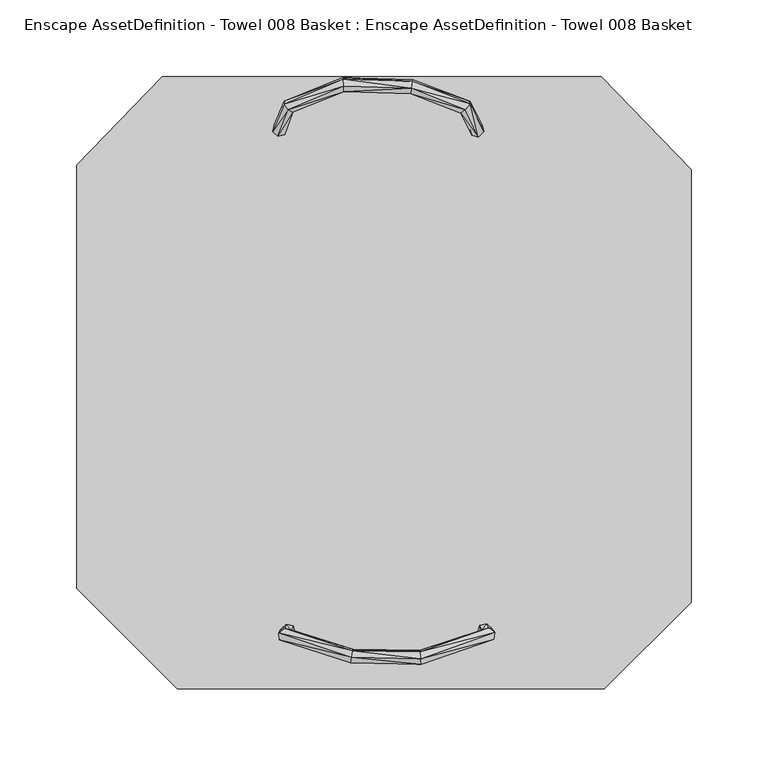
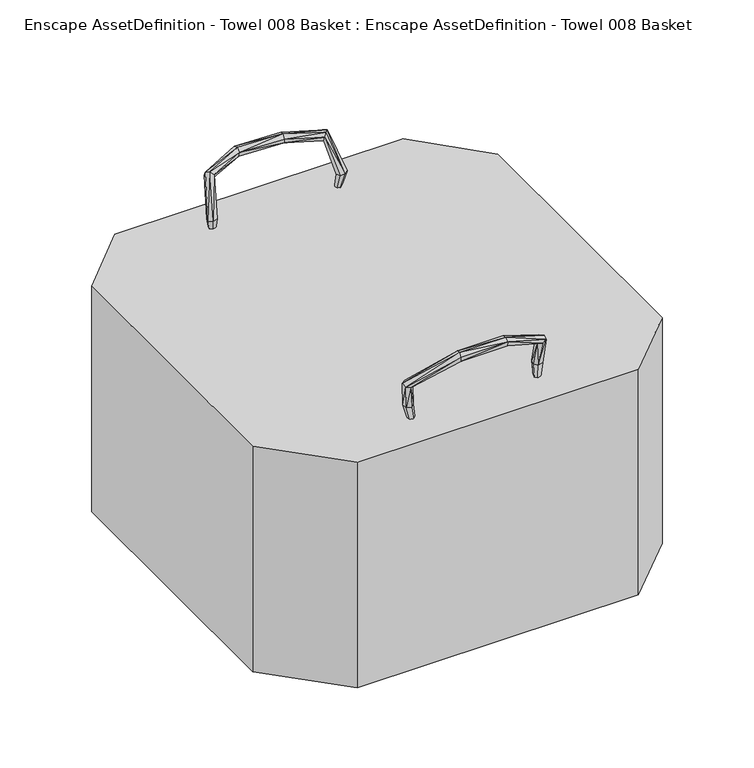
"""IFC4 building model written with IfcOpenShell, lengths in millimetres: geographic element geometry, Enscape AssetDefinition - Towel 008 Basket : Enscape AssetDefinition - Towel 008 Basket."""

from ifc_helpers import new_model, si_unit, origin, place, context, project, spatial, triangles, source, transform, mapped, element, save


def enscape_assetdefinition_towel_008_basket_enscape_c9c0a9e4(model_context):
    return source(origin(), model_context, "Body", "Tessellation", [
        triangles([(143.7320425, -199.008674, 236.284015), (-134.7313928, -199.008674, 0.0), (143.7320425, -199.008674, 0.0), (200.3278158, -142.4128734, 0.0), (200.3278158, 139.6802186, 0.0), (-200.2158859, -133.522573, 236.284015), (-134.7313928, -199.008674, 236.284015), (200.3278158, -142.4128734, 236.284015), (200.3278158, 139.6802186, 236.284015), (141.6133764, 200.3278158, 236.284015), (141.6133764, 200.3278158, 0.0), (-144.4627755, 200.3278158, 236.284015), (-144.4627755, 200.3278158, 0.0), (-200.2158859, -133.522573, 0.0), (-200.2158859, 142.6415295, 236.284015), (-200.2158859, 142.6415295, 0.0), (49.9536369, 178.3386965, 279.5747229), (55.8682514, 166.4390958, 249.6258787), (52.8829639, 182.2034316, 278.514595), (17.3393043, 189.229329, 286.0809573), (50.1231306, 176.6645618, 283.9639172), (57.0898747, 162.0531172, 250.5628854), (53.0892331, 173.2219667, 199.7921654), (53.1260087, 178.8263848, 287.2690025), (61.6373624, 161.0281616, 251.3463768), (56.1081032, 182.6255533, 286.2488613), (18.5145528, 197.4192724, 287.7966774), (65.1103426, 164.3140802, 251.210484), (64.0166412, 168.7256387, 250.3198407), (59.3204435, 169.8241363, 249.5139487), (56.0329534, 184.3316628, 281.8836299), (18.8823174, 198.4074389, 283.2027899), (17.729457, 192.8254395, 289.2517121), (-26.5430178, 198.7480431, 288.3242978), (-27.0386998, 199.565108, 283.722453), (-64.9200608, 184.2357203, 279.9105127), (-26.0521298, 194.178173, 289.9473092), (-66.7221083, 170.3661999, 245.871493), (-61.806856, 182.392101, 277.1042886), (-59.0102471, 178.7832006, 278.6760859), (-63.3962394, 167.0674913, 246.6453738), (-71.3895242, 169.0870265, 245.7419588), (-61.9715489, 174.7905664, 207.7326872), (-26.9987245, 195.8634808, 280.6540174), (-59.2692793, 177.0707143, 283.1068655), (-69.1941322, 161.3991237, 247.1378765), (-64.6658249, 162.5999588, 247.3137742), (-65.1087393, 182.4880435, 284.2645347), (-72.5919535, 164.5954947, 246.3447744), (-62.252968, 178.930321, 285.889054), (-26.4950488, 191.3335792, 282.200253), (-26.0425374, 190.4669352, 286.8900649), (18.5017618, 194.8081491, 280.0304363), (17.7422469, 190.2238904, 281.4503351), (-21.1912415, -181.1960621, 291.6150126), (-63.5881108, -168.0636696, 270.4525507), (-20.4796956, -176.7173202, 290.0000494), (-59.809735, -164.8129415, 270.1727531), (-60.484503, -160.4477464, 271.7013662), (-58.0252736, -162.3249393, 248.5113936), (-59.2133097, -157.9517323, 249.4164256), (-63.7576045, -156.9475785, 249.9440824), (-64.7793581, -159.3044659, 273.5002027), (-68.0812459, -166.8228478, 272.265794), (-21.0857065, -178.441034, 299.4323952), (-20.3933523, -173.962274, 297.8398144), (-68.600909, -162.4272768, 273.7864316), (-67.259362, -160.2382752, 249.5779165), (-55.4445218, -168.7080525, 199.7921654), (-66.1960458, -164.6322657, 248.6745014), (-61.5030501, -165.7131772, 248.1356353), (-21.4822552, -182.0579099, 296.3320031), (24.4563515, -182.8957767, 296.8196913), (23.4138211, -174.8273375, 298.5242021), (24.0006426, -179.4195899, 300.0000386), (72.1122635, -162.2082131, 274.6530756), (67.093075, -168.0444848, 271.3703726), (71.5142395, -166.68056, 273.1260612), (64.5506974, -165.1982922, 247.5855962), (59.6178545, -170.2766523, 207.7326872), (69.2213108, -164.1509724, 248.0524827), (70.4541207, -159.7489882, 248.9607121), (61.2504129, -161.7860913, 248.0892719), (63.4585993, -164.8449162, 271.2040492), (67.0850722, -156.3959407, 249.4244193), (62.5503789, -157.3873046, 249.0214643), (64.1605459, -160.3869761, 272.7630747), (68.3850519, -159.1030066, 274.44682), (23.3162798, -173.7496234, 293.8408034), (23.7671948, -177.2689762, 290.6332593), (24.3204405, -181.8260563, 292.1362744), (-20.0799517, -173.0988456, 293.1260396)], [[66, 74, 89], [89, 92, 66], [57, 92, 89], [89, 90, 57], [90, 91, 55], [55, 57, 90], [90, 89, 87], [89, 74, 88], [88, 87, 89], [76, 88, 74], [88, 76, 82], [87, 88, 85], [82, 85, 88], [85, 86, 87], [84, 87, 86], [87, 84, 90], [91, 90, 84], [86, 83, 84], [83, 86, 80], [80, 86, 85], [85, 82, 80], [81, 82, 76], [82, 81, 80], [84, 83, 79], [81, 79, 80], [79, 83, 80], [79, 77, 84], [84, 77, 91], [76, 78, 81], [79, 81, 78], [78, 77, 79], [75, 74, 66], [74, 75, 76], [78, 76, 75], [75, 73, 78], [73, 91, 77], [77, 78, 73], [55, 91, 73], [73, 72, 55], [56, 55, 72], [66, 65, 75], [73, 75, 65], [65, 72, 73], [64, 72, 65], [72, 64, 56], [56, 64, 70], [70, 71, 56], [71, 70, 69], [68, 70, 64], [70, 68, 69], [64, 67, 68], [67, 65, 66], [65, 67, 64], [63, 66, 92], [66, 63, 67], [62, 68, 67], [67, 63, 62], [68, 62, 69], [62, 61, 69], [56, 71, 60], [69, 61, 60], [60, 71, 69], [60, 61, 59], [59, 61, 62], [62, 63, 59], [59, 92, 57], [92, 59, 63], [59, 58, 60], [60, 58, 56], [57, 58, 59], [55, 56, 58], [58, 57, 55], [33, 37, 52], [52, 20, 33], [54, 20, 52], [52, 51, 54], [51, 44, 53], [53, 54, 51], [51, 52, 45], [52, 37, 50], [50, 45, 52], [48, 50, 37], [50, 48, 49], [45, 50, 46], [49, 46, 50], [46, 47, 45], [40, 45, 47], [45, 40, 51], [44, 51, 40], [47, 41, 40], [41, 47, 43], [43, 47, 46], [46, 49, 43], [42, 49, 48], [49, 42, 43], [40, 41, 38], [42, 38, 43], [38, 41, 43], [38, 39, 40], [40, 39, 44], [48, 36, 42], [38, 42, 36], [36, 39, 38], [34, 37, 33], [37, 34, 48], [36, 48, 34], [34, 35, 36], [35, 44, 39], [39, 36, 35], [53, 44, 35], [35, 32, 53], [19, 53, 32], [33, 27, 34], [35, 34, 27], [27, 32, 35], [31, 32, 27], [32, 31, 19], [19, 31, 29], [29, 30, 19], [30, 29, 23], [28, 29, 31], [29, 28, 23], [31, 26, 28], [26, 27, 33], [27, 26, 31], [24, 33, 20], [33, 24, 26], [25, 28, 26], [26, 24, 25], [28, 25, 23], [25, 22, 23], [19, 30, 18], [23, 22, 18], [18, 30, 23], [18, 22, 21], [21, 22, 25], [25, 24, 21], [21, 20, 54], [20, 21, 24], [21, 17, 18], [18, 17, 19], [54, 17, 21], [53, 19, 17], [17, 54, 53], [16, 14, 6], [6, 15, 16], [14, 16, 13], [15, 12, 13], [13, 16, 15], [11, 13, 12], [10, 12, 15], [12, 10, 11], [14, 13, 5], [13, 11, 5], [5, 11, 10], [10, 9, 5], [4, 5, 9], [8, 9, 10], [9, 8, 4], [7, 10, 15], [7, 8, 10], [7, 6, 14], [6, 7, 15], [7, 1, 8], [14, 5, 3], [5, 4, 3], [8, 1, 3], [3, 4, 8], [14, 2, 7], [1, 7, 2], [2, 3, 1], [2, 14, 3]]),
    ])


if __name__ == "__main__":
    model = new_model("IFC4")
    model_context = context("Model", 3, world=origin())
    ifc_project = project(units=[si_unit("LENGTHUNIT", "METRE", prefix="MILLI")], contexts=[model_context])
    site = spatial("IfcSite", under=ifc_project)
    building = spatial("IfcBuilding", under=site)
    placement = place(None, origin())
    enscape_assetdefinition_towel_008_basket_enscape_shape = enscape_assetdefinition_towel_008_basket_enscape_c9c0a9e4(model_context)
    element("IfcGeographicElement", 1, ObjectType="Enscape AssetDefinition - Towel 008 Basket : Enscape AssetDefinition - Towel 008 Basket", at=placement, inside=building, context=model_context, shape_type="MappedRepresentation", body=[
        mapped(enscape_assetdefinition_towel_008_basket_enscape_shape, transform((0.0, 0.0, 0.0), x_axis=(1.0, 0.0, 0.0), y_axis=(0.0, 1.0, 0.0), z_axis=(0.0, 0.0, 1.0))),
    ])
    save(model, "model.ifc")
